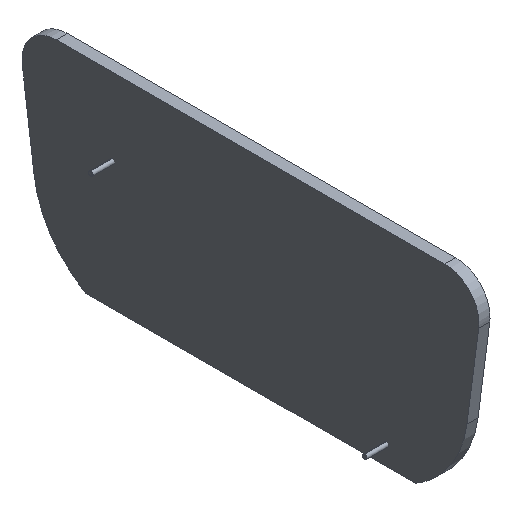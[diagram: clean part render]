
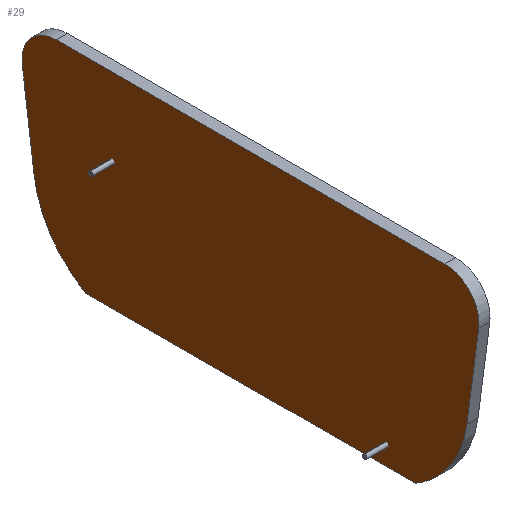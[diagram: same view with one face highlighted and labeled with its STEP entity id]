
A CAD part, isometric view. The second image highlights one B-rep face of the part: STEP entity #29.
In plain terms, the highlighted planar face has unit normal (-1, 0, 0).
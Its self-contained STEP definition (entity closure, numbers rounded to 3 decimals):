
#29=ADVANCED_FACE('',(#55),#356,.T.);
#55=FACE_OUTER_BOUND('',#81,.T.);
#81=EDGE_LOOP('',(#107,#108,#109,#110,#111,#112,#113,#114));
#107=ORIENTED_EDGE('',*,*,#211,.F.);
#108=ORIENTED_EDGE('',*,*,#228,.F.);
#109=ORIENTED_EDGE('',*,*,#231,.F.);
#110=ORIENTED_EDGE('',*,*,#233,.F.);
#111=ORIENTED_EDGE('',*,*,#215,.T.);
#112=ORIENTED_EDGE('',*,*,#225,.T.);
#113=ORIENTED_EDGE('',*,*,#223,.T.);
#114=ORIENTED_EDGE('',*,*,#220,.T.);
#211=EDGE_CURVE('',#317,#316,#285,.T.);
#215=EDGE_CURVE('',#320,#321,#289,.T.);
#220=EDGE_CURVE('',#325,#316,#263,.T.);
#223=EDGE_CURVE('',#327,#325,#265,.T.);
#225=EDGE_CURVE('',#321,#327,#267,.T.);
#228=EDGE_CURVE('',#329,#317,#269,.T.);
#231=EDGE_CURVE('',#331,#329,#271,.T.);
#233=EDGE_CURVE('',#320,#331,#273,.T.);
#263=(
BOUNDED_CURVE()
B_SPLINE_CURVE(2,(#543,#544,#545),.UNSPECIFIED.,.F.,.F.)
B_SPLINE_CURVE_WITH_KNOTS((3,3),(-773.853,-600.104),
 .UNSPECIFIED.)
CURVE()
GEOMETRIC_REPRESENTATION_ITEM()
RATIONAL_B_SPLINE_CURVE((1.,0.895,1.))
REPRESENTATION_ITEM('')
);
#265=(
BOUNDED_CURVE()
B_SPLINE_CURVE(2,(#551,#552,#553),.UNSPECIFIED.,.F.,.F.)
B_SPLINE_CURVE_WITH_KNOTS((3,3),(-936.692,-773.853),
 .UNSPECIFIED.)
CURVE()
GEOMETRIC_REPRESENTATION_ITEM()
RATIONAL_B_SPLINE_CURVE((1.,1.,1.))
REPRESENTATION_ITEM('')
);
#267=(
BOUNDED_CURVE()
B_SPLINE_CURVE(2,(#557,#558,#559,#560,#561),.UNSPECIFIED.,.F.,.F.)
B_SPLINE_CURVE_WITH_KNOTS((3,2,3),(-1042.251,-989.472,
-936.692),.UNSPECIFIED.)
CURVE()
GEOMETRIC_REPRESENTATION_ITEM()
RATIONAL_B_SPLINE_CURVE((1.,0.911,1.,0.911,1.))
REPRESENTATION_ITEM('')
);
#269=(
BOUNDED_CURVE()
B_SPLINE_CURVE(2,(#569,#570,#571),.UNSPECIFIED.,.F.,.F.)
B_SPLINE_CURVE_WITH_KNOTS((3,3),(-773.853,-600.104),
 .UNSPECIFIED.)
CURVE()
GEOMETRIC_REPRESENTATION_ITEM()
RATIONAL_B_SPLINE_CURVE((1.,0.895,1.))
REPRESENTATION_ITEM('')
);
#271=(
BOUNDED_CURVE()
B_SPLINE_CURVE(2,(#577,#578,#579),.UNSPECIFIED.,.F.,.F.)
B_SPLINE_CURVE_WITH_KNOTS((3,3),(-936.692,-773.853),
 .UNSPECIFIED.)
CURVE()
GEOMETRIC_REPRESENTATION_ITEM()
RATIONAL_B_SPLINE_CURVE((1.,1.,1.))
REPRESENTATION_ITEM('')
);
#273=(
BOUNDED_CURVE()
B_SPLINE_CURVE(2,(#583,#584,#585,#586,#587),.UNSPECIFIED.,.F.,.F.)
B_SPLINE_CURVE_WITH_KNOTS((3,2,3),(-1042.251,-989.472,
-936.692),.UNSPECIFIED.)
CURVE()
GEOMETRIC_REPRESENTATION_ITEM()
RATIONAL_B_SPLINE_CURVE((1.,0.911,1.,0.911,1.))
REPRESENTATION_ITEM('')
);
#285=B_SPLINE_CURVE_WITH_KNOTS('',1,(#525,#526),.UNSPECIFIED.,.F.,.F.,(2,
2),(0.,1.),.UNSPECIFIED.);
#289=B_SPLINE_CURVE_WITH_KNOTS('',1,(#533,#534),.UNSPECIFIED.,.F.,.F.,(2,
2),(0.,1.),.UNSPECIFIED.);
#316=VERTEX_POINT('',#509);
#317=VERTEX_POINT('',#510);
#320=VERTEX_POINT('',#513);
#321=VERTEX_POINT('',#514);
#325=VERTEX_POINT('',#518);
#327=VERTEX_POINT('',#520);
#329=VERTEX_POINT('',#522);
#331=VERTEX_POINT('',#524);
#356=PLANE('',#454);
#454=AXIS2_PLACEMENT_3D('',#499,#476,$);
#476=DIRECTION('',(-1.,0.,0.));
#499=CARTESIAN_POINT('',(0.,-425.284,8.295));
#509=CARTESIAN_POINT('',(0.,298.052,12.));
#510=CARTESIAN_POINT('',(0.,-298.052,12.));
#513=CARTESIAN_POINT('',(0.,-351.79,382.5));
#514=CARTESIAN_POINT('',(0.,351.79,382.5));
#518=CARTESIAN_POINT('',(0.,391.857,150.926));
#520=CARTESIAN_POINT('',(0.,413.252,312.354));
#522=CARTESIAN_POINT('',(0.,-391.857,150.926));
#524=CARTESIAN_POINT('',(0.,-413.252,312.354));
#525=CARTESIAN_POINT('',(0.,-298.052,12.));
#526=CARTESIAN_POINT('',(0.,298.052,12.));
#533=CARTESIAN_POINT('',(0.,-351.79,382.5));
#534=CARTESIAN_POINT('',(0.,351.79,382.5));
#543=CARTESIAN_POINT('',(0.,391.857,150.926));
#544=CARTESIAN_POINT('',(0.,379.554,58.101));
#545=CARTESIAN_POINT('',(0.,298.052,12.));
#551=CARTESIAN_POINT('',(0.,413.252,312.354));
#552=CARTESIAN_POINT('',(0.,402.555,231.64));
#553=CARTESIAN_POINT('',(0.,391.857,150.926));
#557=CARTESIAN_POINT('',(0.,351.79,382.5));
#558=CARTESIAN_POINT('',(0.,379.898,382.5));
#559=CARTESIAN_POINT('',(0.,398.422,361.359));
#560=CARTESIAN_POINT('',(0.,416.945,340.218));
#561=CARTESIAN_POINT('',(0.,413.252,312.354));
#569=CARTESIAN_POINT('',(0.,-391.857,150.926));
#570=CARTESIAN_POINT('',(0.,-379.554,58.101));
#571=CARTESIAN_POINT('',(0.,-298.052,12.));
#577=CARTESIAN_POINT('',(0.,-413.252,312.354));
#578=CARTESIAN_POINT('',(0.,-402.555,231.64));
#579=CARTESIAN_POINT('',(0.,-391.857,150.926));
#583=CARTESIAN_POINT('',(0.,-351.79,382.5));
#584=CARTESIAN_POINT('',(0.,-379.898,382.5));
#585=CARTESIAN_POINT('',(0.,-398.422,361.359));
#586=CARTESIAN_POINT('',(0.,-416.945,340.218));
#587=CARTESIAN_POINT('',(0.,-413.252,312.354));
